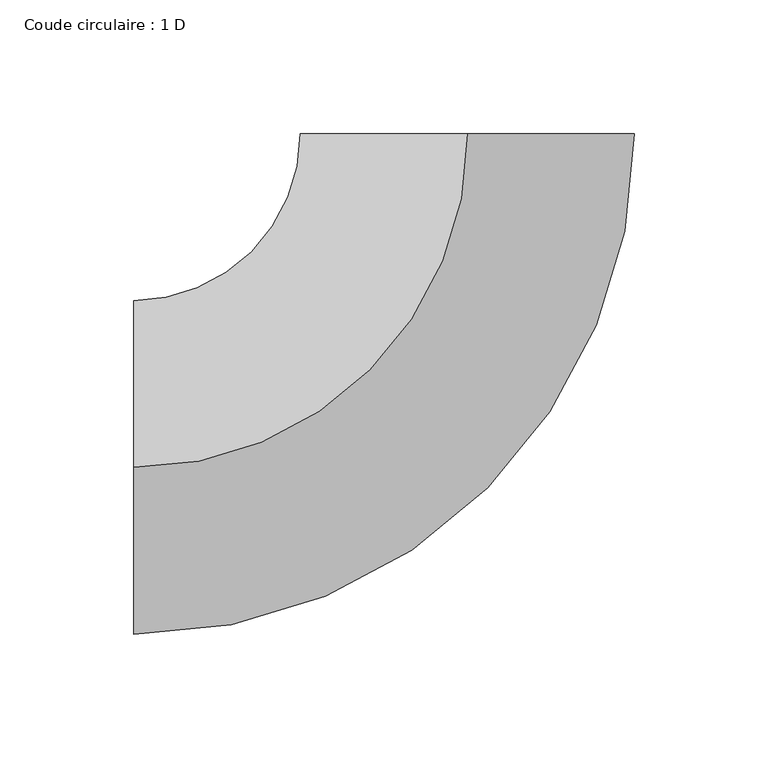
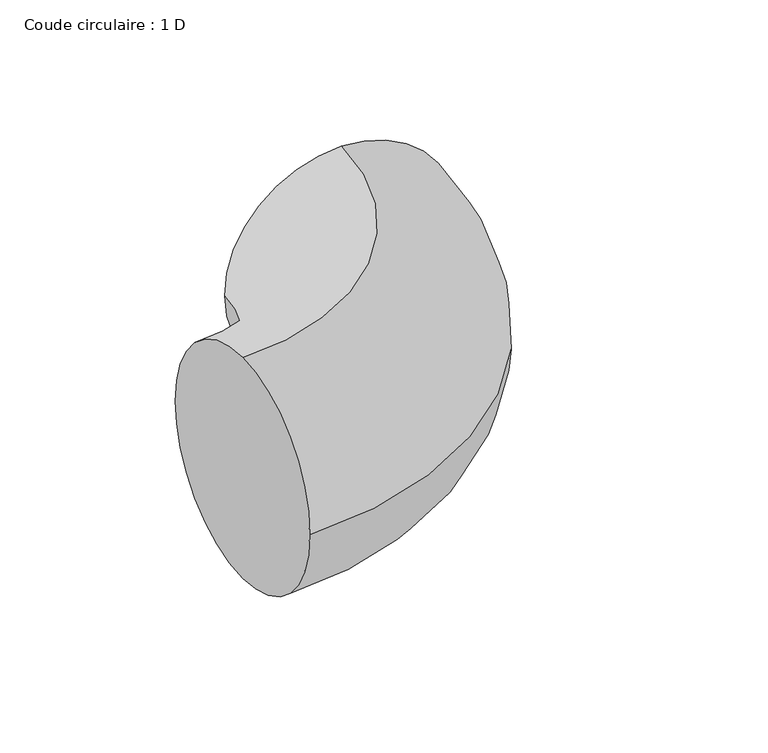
"""IFC4 building model written with IfcOpenShell, lengths in millimetres: duct fitting geometry, Coude circulaire : 1 D."""

from ifc_helpers import new_model, si_unit, point, frame, origin, place, context, project, spatial, circle_curve, ellipse_curve, trimmed, source, transform, mapped, element, save
from ifc_brep_helpers import plane_surface, revolved_surface, advanced_brep


def coude_circulaire_1_d_0da3bdd5(model_context):
    return source(origin(), model_context, "Body", "AdvancedBrep", [
        advanced_brep(
        [(-125.0000021, 0.0, 62.5), (-125.0000021, 62.5, 0.0), (-125.0000021, 0.0, -62.5), (-125.0000021, -62.5, 0.0), (-2.1e-06, 125.0000021, 62.5), (62.4999979, 125.0000032, 0.0), (-2.1e-06, 125.0000021, -62.5), (-62.5000021, 125.0000011, 0.0)],
        [
            (0, 1, circle_curve(frame((-125.0000021, 0.0, 0.0), z_axis=(-1.0, 0.0, 0.0), x_axis=(0.0, 1.0, 0.0)), 62.5)),
            (1, 2, circle_curve(frame((-125.0000021, 0.0, 0.0), z_axis=(-1.0, 0.0, 0.0), x_axis=(0.0, 1.0, 0.0)), 62.5)),
            (2, 3, circle_curve(frame((-125.0000021, 0.0, 0.0), z_axis=(-1.0, 0.0, 0.0), x_axis=(0.0, 1.0, 0.0)), 62.5)),
            (3, 0, circle_curve(frame((-125.0000021, 0.0, 0.0), z_axis=(-1.0, 0.0, 0.0), x_axis=(0.0, 1.0, 0.0)), 62.5)),
            (4, 5, circle_curve(frame((-2.1e-06, 125.0000021, 0.0), z_axis=(-1.719401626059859e-08, 0.9999999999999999, 0.0), x_axis=(-0.9999999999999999, -1.719401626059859e-08, 0.0)), 62.5)),
            (5, 6, circle_curve(frame((-2.1e-06, 125.0000021, 0.0), z_axis=(-1.719401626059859e-08, 0.9999999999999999, 0.0), x_axis=(-0.9999999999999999, -1.719401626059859e-08, 0.0)), 62.5)),
            (6, 7, circle_curve(frame((-2.1e-06, 125.0000021, 0.0), z_axis=(-1.719401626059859e-08, 0.9999999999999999, 0.0), x_axis=(-0.9999999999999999, -1.719401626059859e-08, 0.0)), 62.5)),
            (7, 4, circle_curve(frame((-2.1e-06, 125.0000021, 0.0), z_axis=(-1.719401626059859e-08, 0.9999999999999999, 0.0), x_axis=(-0.9999999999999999, -1.719401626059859e-08, 0.0)), 62.5)),
            (7, 1, circle_curve(frame((-125.0000021, 125.0, 0.0), z_axis=(0.0, 0.0, -1.0), x_axis=(0.0, -1.0, 0.0)), 62.5)),
            (0, 4, circle_curve(frame((-125.0000021, 125.0, 62.5), z_axis=(0.0, 0.0, 1.0), x_axis=(0.0, -1.0, 0.0)), 125.0)),
            (6, 2, circle_curve(frame((-125.0000021, 125.0, -62.5), z_axis=(0.0, 0.0, -1.0), x_axis=(0.0, -1.0, 0.0)), 125.0)),
            (5, 3, circle_curve(frame((-125.0000021, 125.0, 0.0), z_axis=(0.0, 0.0, -1.0), x_axis=(0.0, -1.0, 0.0)), 187.5)),
        ],
        [
            plane_surface(frame((-125.0000021, 0.0, 0.0), z_axis=(-1.0, 0.0, 0.0), x_axis=(0.0, 0.0, 1.0))),
            plane_surface(frame((-2.1e-06, 125.0000021, 0.0), z_axis=(-1.7194016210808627e-08, 0.9999999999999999, 0.0), x_axis=(0.0, 0.0, 1.0))),
            revolved_surface(trimmed(ellipse_curve(frame((-125.0000021, 0.0, 0.0), z_axis=(-1.0, 0.0, 0.0), x_axis=(0.0, 1.0, 0.0)), 62.5, 62.5), [point((-125.0000021, 0.0, 62.5))], [point((-125.0000021, 62.5, 0.0))], True, "CARTESIAN"), (-125.0000021, 125.0, 0.0), (0.0, 0.0, 1.0)),
            revolved_surface(trimmed(ellipse_curve(frame((-125.0000021, 0.0, 0.0), z_axis=(-1.0, 0.0, 0.0), x_axis=(0.0, 1.0, 0.0)), 62.5, 62.5), [point((-125.0000021, 62.5, 0.0))], [point((-125.0000021, 0.0, -62.5))], True, "CARTESIAN"), (-125.0000021, 125.0, 0.0), (0.0, 0.0, 1.0)),
            revolved_surface(trimmed(ellipse_curve(frame((-125.0000021, 0.0, 0.0), z_axis=(-1.0, 0.0, 0.0), x_axis=(0.0, 1.0, 0.0)), 62.5, 62.5), [point((-125.0000021, 0.0, -62.5))], [point((-125.0000021, -62.5, 0.0))], True, "CARTESIAN"), (-125.0000021, 125.0, 0.0), (0.0, 0.0, 1.0)),
            revolved_surface(trimmed(ellipse_curve(frame((-125.0000021, 0.0, 0.0), z_axis=(-1.0, 0.0, 0.0), x_axis=(0.0, 1.0, 0.0)), 62.5, 62.5), [point((-125.0000021, -62.5, 0.0))], [point((-125.0000021, 0.0, 62.5))], True, "CARTESIAN"), (-125.0000021, 125.0, 0.0), (0.0, 0.0, 1.0)),
        ],
        [
            (0, [[1, 2, 3, 4]]),
            (1, [[5, 6, 7, 8]]),
            (2, [[9, -1, 10, -8]]),
            (3, [[11, -2, -9, -7]]),
            (4, [[12, -3, -11, -6]]),
            (5, [[-10, -4, -12, -5]]),
        ],
    ),
    ])


if __name__ == "__main__":
    model = new_model("IFC4")
    model_context = context("Model", 3, world=origin())
    ifc_project = project(units=[si_unit("LENGTHUNIT", "METRE", prefix="MILLI")], contexts=[model_context])
    site = spatial("IfcSite", under=ifc_project)
    building = spatial("IfcBuilding", under=site)
    placement = place(None, origin())
    coude_circulaire_1_d_shape = coude_circulaire_1_d_0da3bdd5(model_context)
    element("IfcDuctFitting", 1, ObjectType="Coude circulaire : 1 D", at=placement, inside=building, context=model_context, shape_type="MappedRepresentation", body=[
        mapped(coude_circulaire_1_d_shape, transform((0.0, 0.0, 0.0), x_axis=(1.0, 0.0, 0.0), y_axis=(0.0, 1.0, 0.0), z_axis=(0.0, 0.0, 1.0))),
    ])
    save(model, "model.ifc")
